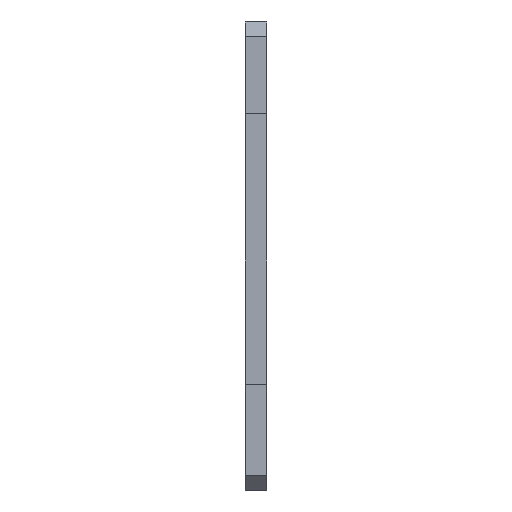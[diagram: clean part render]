
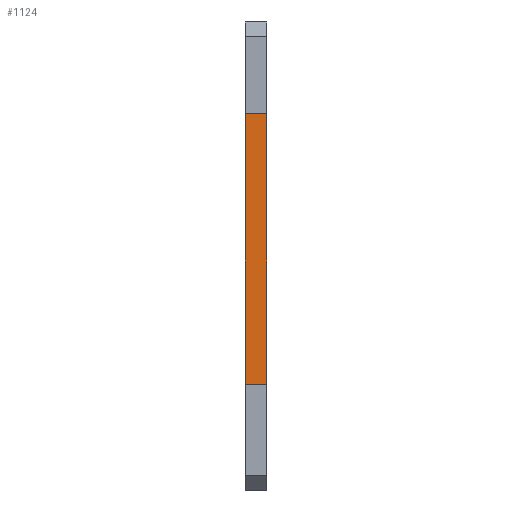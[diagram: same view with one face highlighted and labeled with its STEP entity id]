
A CAD part, front view. The second image highlights one B-rep face of the part: STEP entity #1124.
In plain terms, the highlighted planar face has unit normal (0, -1, 0).
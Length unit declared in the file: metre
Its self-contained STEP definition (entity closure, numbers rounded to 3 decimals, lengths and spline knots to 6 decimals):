
#116=ORIENTED_EDGE('',*,*,#416,.T.);
#117=ORIENTED_EDGE('',*,*,#440,.T.);
#118=ORIENTED_EDGE('',*,*,#358,.F.);
#119=ORIENTED_EDGE('',*,*,#441,.F.);
#358=EDGE_CURVE('',#520,#521,#628,.T.);
#416=EDGE_CURVE('',#579,#578,#686,.T.);
#440=EDGE_CURVE('',#578,#521,#710,.T.);
#441=EDGE_CURVE('',#579,#520,#711,.T.);
#520=VERTEX_POINT('',#1569);
#521=VERTEX_POINT('',#1571);
#578=VERTEX_POINT('',#1686);
#579=VERTEX_POINT('',#1688);
#628=LINE('',#1570,#790);
#686=LINE('',#1687,#848);
#710=LINE('',#1735,#872);
#711=LINE('',#1736,#873);
#790=VECTOR('',#1273,1.);
#848=VECTOR('',#1333,1.);
#872=VECTOR('',#1359,1.);
#873=VECTOR('',#1360,1.);
#944=EDGE_LOOP('',(#116,#117,#118,#119));
#1012=FACE_BOUND('',#944,.T.);
#1068=PLANE('',#1193);
#1124=ADVANCED_FACE('',(#1012),#1068,.F.);
#1193=AXIS2_PLACEMENT_3D('',#1734,#1357,#1358);
#1273=DIRECTION('',(0.,0.,-1.));
#1333=DIRECTION('',(0.,0.,-1.));
#1357=DIRECTION('',(0.,1.,0.));
#1358=DIRECTION('',(-1.,0.,0.));
#1359=DIRECTION('',(1.,0.,0.));
#1360=DIRECTION('',(1.,0.,0.));
#1569=CARTESIAN_POINT('',(-0.04375,-0.239,0.0355));
#1570=CARTESIAN_POINT('',(-0.04375,-0.239,0.474254));
#1571=CARTESIAN_POINT('',(-0.04375,-0.239,-0.002999));
#1686=CARTESIAN_POINT('',(-0.04675,-0.239,-0.002999));
#1687=CARTESIAN_POINT('',(-0.04675,-0.239,0.474254));
#1688=CARTESIAN_POINT('',(-0.04675,-0.239,0.0355));
#1734=CARTESIAN_POINT('',(-0.095875,-0.239,0.474254));
#1735=CARTESIAN_POINT('',(-0.095875,-0.239,-0.002999));
#1736=CARTESIAN_POINT('',(-0.095875,-0.239,0.0355));
